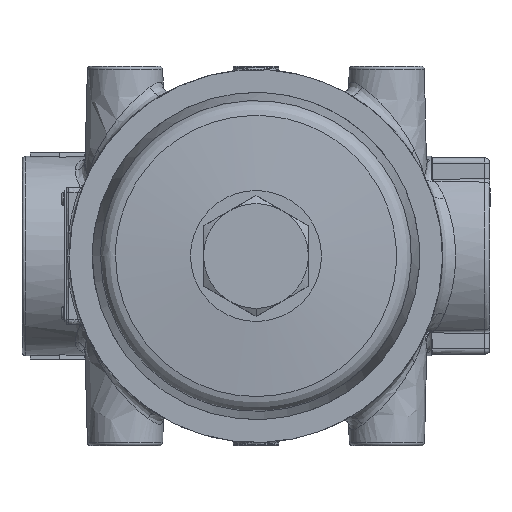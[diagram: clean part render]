
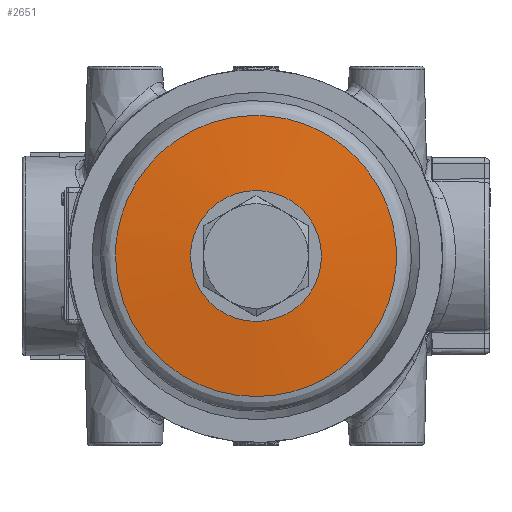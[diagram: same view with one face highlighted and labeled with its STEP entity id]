
A CAD part, front view. The second image highlights one B-rep face of the part: STEP entity #2651.
In plain terms, the highlighted free-form (B-spline) face has degree [2, 1] with [7, 2] control points.
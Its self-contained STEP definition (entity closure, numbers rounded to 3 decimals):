
#2571=CARTESIAN_POINT('V63',(2.048,-281.565,
   0.));
#2572=VERTEX_POINT('V63',#2571);
#2573=CARTESIAN_POINT('E88',(2.048,-281.565,
   0.));
#2574=CARTESIAN_POINT('E88',(2.048,-281.565,
   -34.641));
#2575=CARTESIAN_POINT('E88',(32.048,-281.565,
   -17.321));
#2576=CARTESIAN_POINT('E88',(62.048,-281.565,
   0.));
#2577=CARTESIAN_POINT('E88',(32.048,-281.565,
   17.321));
#2578=CARTESIAN_POINT('E88',(2.048,-281.565,
   34.641));
#2579=CARTESIAN_POINT('E88',(2.048,-281.565,
   0.));
#2587=(BOUNDED_CURVE()B_SPLINE_CURVE(2,(#2573,#2574,#2575,#2576,
   #2577,#2578,#2579),.CIRCULAR_ARC.,.T.,.U.)
   B_SPLINE_CURVE_WITH_KNOTS((3,2,2,3),(0.0,0.333,
   0.667,1.0),.UNSPECIFIED.)CURVE()
   GEOMETRIC_REPRESENTATION_ITEM()RATIONAL_B_SPLINE_CURVE((1.0,
   0.5,1.0,0.5,1.0,0.5,1.0)
   )REPRESENTATION_ITEM('E88'));
#2588=EDGE_CURVE('E88',#2572,#2572,#2587,.T.);
#2601=CARTESIAN_POINT('F39',(2.048,-281.565,
   0.));
#2602=CARTESIAN_POINT('F39',(2.048,-281.565,
   34.641));
#2603=CARTESIAN_POINT('F39',(32.048,-281.565,
   17.321));
#2604=CARTESIAN_POINT('F39',(62.048,-281.565,
   0.));
#2605=CARTESIAN_POINT('F39',(32.048,-281.565,
   -17.321));
#2606=CARTESIAN_POINT('F39',(2.048,-281.565,
   -34.641));
#2607=CARTESIAN_POINT('F39',(2.048,-281.565,
   0.));
#2608=CARTESIAN_POINT('F39',(-20.887,
   -279.558,0.));
#2609=CARTESIAN_POINT('F39',(-20.887,
   -279.558,74.367));
#2610=CARTESIAN_POINT('F39',(43.516,-279.558,
   37.183));
#2611=CARTESIAN_POINT('F39',(107.92,
   -279.558,0.));
#2612=CARTESIAN_POINT('F39',(43.516,-279.558,
   -37.183));
#2613=CARTESIAN_POINT('F39',(-20.887,
   -279.558,-74.367));
#2614=CARTESIAN_POINT('F39',(-20.887,
   -279.558,0.));
#2622=(BOUNDED_SURFACE()B_SPLINE_SURFACE(2,1,((#2601,#2608),(
   #2602,#2609),(#2603,#2610),(#2604,#2611),(#2605,#2612),(
   #2606,#2613),(#2607,#2614)),.CONICAL_SURF.,.T.,.F.,.U.)
   B_SPLINE_SURFACE_WITH_KNOTS((3,2,2,3),(2,2),(0.0,
   4.735,9.469,14.204),(0.0,1.0),
   .UNSPECIFIED.)GEOMETRIC_REPRESENTATION_ITEM()
   RATIONAL_B_SPLINE_SURFACE(((1.0,1.0),(0.5,
   0.5),(1.0,1.0),(0.5,
   0.5),(1.0,1.0),(0.5,
   0.5),(1.0,1.0)))REPRESENTATION_ITEM('F39')SURFACE(
   ));
#2623=CARTESIAN_POINT('V70',(-20.887,
   -279.558,0.));
#2624=VERTEX_POINT('V70',#2623);
#2625=CARTESIAN_POINT('E95',(-20.887,
   -279.558,0.0));
#2626=CARTESIAN_POINT('E95',(2.048,-281.565,
   0.0));
#2627=QUASI_UNIFORM_CURVE('E95',1,(#2625,#2626),.POLYLINE_FORM.,.F.,
   .U.);
#2628=EDGE_CURVE('E95',#2624,#2572,#2627,.T.);
#2629=ORIENTED_EDGE('E95',*,*,#2628,.T.);
#2630=ORIENTED_EDGE('F38',*,*,#2588,.F.);
#2631=ORIENTED_EDGE('E95',*,*,#2628,.F.);
#2632=CARTESIAN_POINT('E96',(-20.887,
   -279.558,0.));
#2633=CARTESIAN_POINT('E96',(-20.887,
   -279.558,-74.367));
#2634=CARTESIAN_POINT('E96',(43.516,-279.558,
   -37.183));
#2635=CARTESIAN_POINT('E96',(107.92,
   -279.558,0.));
#2636=CARTESIAN_POINT('E96',(43.516,-279.558,
   37.183));
#2637=CARTESIAN_POINT('E96',(-20.887,
   -279.558,74.367));
#2638=CARTESIAN_POINT('E96',(-20.887,
   -279.558,0.));
#2646=(BOUNDED_CURVE()B_SPLINE_CURVE(2,(#2632,#2633,#2634,#2635,
   #2636,#2637,#2638),.CIRCULAR_ARC.,.T.,.U.)
   B_SPLINE_CURVE_WITH_KNOTS((3,2,2,3),(0.0,4.735,
   9.469,14.204),.UNSPECIFIED.)CURVE()
   GEOMETRIC_REPRESENTATION_ITEM()RATIONAL_B_SPLINE_CURVE((1.0,
   0.5,1.0,0.5,1.0,0.5,1.0)
   )REPRESENTATION_ITEM('E96'));
#2647=EDGE_CURVE('E96',#2624,#2624,#2646,.T.);
#2648=ORIENTED_EDGE('E96',*,*,#2647,.T.);
#2649=EDGE_LOOP('F39',(#2629,#2630,#2631,#2648));
#2650=FACE_OUTER_BOUND('F39',#2649,.T.);
#2651=ADVANCED_FACE('F39',(#2650),#2622,.T.);
